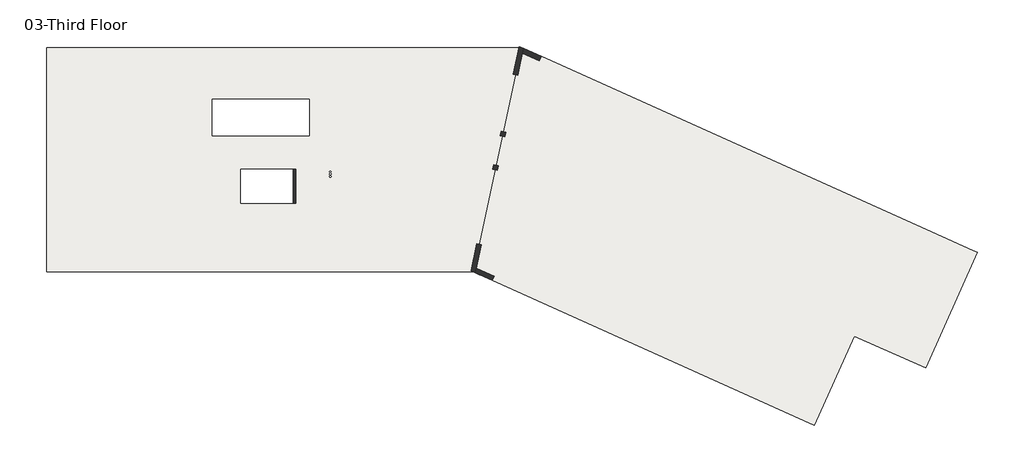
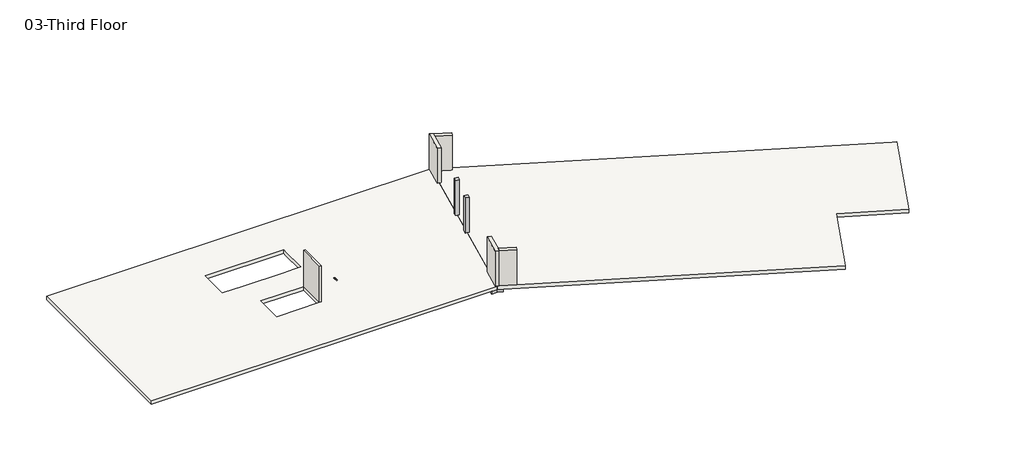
# One storey: 5 walls, 3 beams, 2 columns, 2 slabs.
"""IFC4 building model written with IfcOpenShell, lengths in millimetres."""

from ifc_helpers import new_model, si_unit, frame, origin, place, context, project, spatial, polyline, circle_curve, outline, extrude, faceted_brep, element, save
from ifc_brep_helpers import plane_surface, revolved_surface, advanced_brep

model = new_model("IFC4")

# Units and contexts
model_context = context("Model", 3, world=origin())
ifc_project = project(units=[si_unit("LENGTHUNIT", "METRE", prefix="MILLI")], contexts=[model_context])

# Site, building, storey
site = spatial("IfcSite", under=ifc_project)
building = spatial("IfcBuilding", under=site)
storey = spatial("IfcBuildingStorey", under=building, Name="03-Third Floor", Elevation=10058.4)

# Beams
placement = place(None, origin())
element("IfcBeam", 1, ObjectType="Concrete-Rectangular Beam : 33\" x 18\"", at=placement, inside=storey, context=model_context, shape_type="SweptSolid", body=[
    extrude(outline(polyline([(30288.1466789, -5386.3746605), (29418.8803327, -5200.1033006), (30631.1596114, 457.2), (31098.7387393, 457.2), (31501.5663945, 276.250679), (30288.1466789, -5386.3746605)])), frame((0.0, 0.0, 9525.0), z_axis=(0.0, 0.0, 1.0), x_axis=(1.0, 0.0, 0.0)), (0.0, 0.0, 1.0), 228.6),
])
element("IfcBeam", 2, ObjectType="Concrete-Rectangular Beam : 33\" x 18\"", at=placement, inside=storey, context=model_context, shape_type="SweptSolid", body=[
    extrude(outline(polyline([(28946.1350665, -7406.2478765), (29418.8803327, -5200.1033006), (30288.1466789, -5386.3746605), (29815.4014126, -7592.5192364), (28946.1350665, -7406.2478765)])), frame((0.0, 0.0, 9525.0), z_axis=(0.0, 0.0, 1.0), x_axis=(1.0, 0.0, 0.0)), (0.0, 0.0, 1.0), 228.6),
])
element("IfcBeam", 3, ObjectType="Concrete-Rectangular Beam : 33\" x 18\"", at=placement, inside=storey, context=model_context, shape_type="SweptSolid", body=[
    extrude(outline(polyline([(28946.1350665, -7406.2478765), (29815.4014126, -7592.5192364), (28306.6092516, -14633.549321), (27903.7815965, -14452.6), (27436.2024686, -14452.6), (28946.1350665, -7406.2478765)])), frame((0.0, 0.0, 9525.0), z_axis=(0.0, 0.0, 1.0), x_axis=(1.0, 0.0, 0.0)), (0.0, 0.0, 1.0), 228.6),
])

# Columns
element("IfcColumn", 4, ObjectType="Concrete-Rectangular-Column : 12 x 12", at=placement, inside=storey, context=model_context, shape_type="SweptSolid", body=[
    extrude(outline(polyline([(29275.3181702, -7324.750679), (29573.3523461, -7388.6151452), (29509.4878798, -7686.649321), (29211.453704, -7622.7848548), (29275.3181702, -7324.750679)])), frame((0.0, 0.0, 10058.4), z_axis=(0.0, 0.0, 1.0), x_axis=(1.0, 0.0, 0.0)), (0.0, 0.0, 1.0), 3048.0),
])
element("IfcColumn", 5, ObjectType="Concrete-Rectangular-Column : 12 x 12", at=placement, inside=storey, context=model_context, shape_type="SweptSolid", body=[
    extrude(outline(polyline([(29748.8467417, -5114.950679), (30046.8809175, -5178.8151452), (29983.0164512, -5476.849321), (29684.9822754, -5412.9848548), (29748.8467417, -5114.950679)])), frame((0.0, 0.0, 10058.4), z_axis=(0.0, 0.0, 1.0), x_axis=(1.0, 0.0, 0.0)), (0.0, 0.0, 1.0), 3048.0),
])

# Slabs
element("IfcSlab", 6, ObjectType="RC Slab 12\"", at=placement, inside=storey, context=model_context, shape_type="AdvancedBrep", body=[
    advanced_brep(
    [(-457.2, 457.2, 9753.6), (30631.1596114, 457.2, 9753.6), (31098.7387393, 457.2, 9753.6), (27903.7815965, -14452.6, 9753.6), (27436.2024686, -14452.6, 9753.6), (-457.2, -14452.6, 9753.6), (17005.3, -2984.5, 9753.6), (10553.7, -2984.5, 9753.6), (10553.7, -5422.9, 9753.6), (10858.5, -5422.9, 9753.6), (17005.3, -5422.9, 9753.6), (17005.3, -5168.9, 9753.6), (17005.3, -3289.3, 9753.6), (15951.2, -7633.3081651, 9753.6), (12446.0, -7633.3081651, 9753.6), (12446.0, -9893.3, 9753.6), (15951.2, -9893.3, 9753.6), (18347.8020543, -8109.4381113, 9753.6), (18449.4020543, -8109.4381113, 9753.6), (18347.8020543, -7957.0381113, 9753.6), (18449.4020543, -7957.0381113, 9753.6), (18347.8020543, -7804.6381113, 9753.6), (18449.4020543, -7804.6381113, 9753.6), (31098.7387393, 457.2, 10058.4), (-457.2, 457.2, 10058.4), (-457.2, -14452.6, 10058.4), (27903.7815965, -14452.6, 10058.4), (10553.7, -2984.5, 10058.4), (17005.3, -2984.5, 10058.4), (17005.3, -3289.3, 10058.4), (17005.3, -5168.9, 10058.4), (17005.3, -5422.9, 10058.4), (16522.7, -5422.9, 10058.4), (15608.3, -5422.9, 10058.4), (14389.1, -5422.9, 10058.4), (13474.7, -5422.9, 10058.4), (12242.8, -5422.9, 10058.4), (11328.4, -5422.9, 10058.4), (10553.7, -5422.9, 10058.4), (12446.0, -7633.3081651, 10058.4), (15951.2, -7633.3081651, 10058.4), (15951.2, -9893.3, 10058.4), (12446.0, -9893.3, 10058.4), (18449.4020543, -8109.4381113, 10058.4), (18347.8020543, -8109.4381113, 10058.4), (18449.4020543, -7957.0381113, 10058.4), (18347.8020543, -7957.0381113, 10058.4), (18449.4020543, -7804.6381113, 10058.4), (18347.8020543, -7804.6381113, 10058.4)],
    [
        (0, 1),
        (1, 2),
        (2, 3),
        (3, 4),
        (4, 5),
        (5, 0),
        (6, 7),
        (7, 8),
        (8, 9),
        (9, 10),
        (10, 11),
        (11, 12),
        (12, 6),
        (13, 14),
        (14, 15),
        (15, 16),
        (16, 13),
        (17, 18, circle_curve(frame((18398.6020543, -8109.4381113, 9753.6), z_axis=(0.0, 0.0, 1.0), x_axis=(1.0, 0.0, 0.0)), 50.8)),
        (18, 17, circle_curve(frame((18398.6020543, -8109.4381113, 9753.6), z_axis=(0.0, 0.0, 1.0), x_axis=(1.0, 0.0, 0.0)), 50.8)),
        (19, 20, circle_curve(frame((18398.6020543, -7957.0381113, 9753.6), z_axis=(0.0, 0.0, 1.0), x_axis=(1.0, 0.0, 0.0)), 50.8)),
        (20, 19, circle_curve(frame((18398.6020543, -7957.0381113, 9753.6), z_axis=(0.0, 0.0, 1.0), x_axis=(1.0, 0.0, 0.0)), 50.8)),
        (21, 22, circle_curve(frame((18398.6020543, -7804.6381113, 9753.6), z_axis=(0.0, 0.0, 1.0), x_axis=(1.0, 0.0, 0.0)), 50.8)),
        (22, 21, circle_curve(frame((18398.6020543, -7804.6381113, 9753.6), z_axis=(0.0, 0.0, 1.0), x_axis=(1.0, 0.0, 0.0)), 50.8)),
        (23, 24),
        (24, 25),
        (25, 26),
        (26, 23),
        (27, 28),
        (28, 29),
        (29, 30),
        (30, 31),
        (31, 32),
        (32, 33),
        (33, 34),
        (34, 35),
        (35, 36),
        (36, 37),
        (37, 38),
        (38, 27),
        (39, 40),
        (40, 41),
        (41, 42),
        (42, 39),
        (43, 44, circle_curve(frame((18398.6020543, -8109.4381113, 10058.4), z_axis=(0.0, 0.0, -1.0), x_axis=(1.0, 0.0, 0.0)), 50.8)),
        (44, 43, circle_curve(frame((18398.6020543, -8109.4381113, 10058.4), z_axis=(0.0, 0.0, -1.0), x_axis=(1.0, 0.0, 0.0)), 50.8)),
        (45, 46, circle_curve(frame((18398.6020543, -7957.0381113, 10058.4), z_axis=(0.0, 0.0, -1.0), x_axis=(1.0, 0.0, 0.0)), 50.8)),
        (46, 45, circle_curve(frame((18398.6020543, -7957.0381113, 10058.4), z_axis=(0.0, 0.0, -1.0), x_axis=(1.0, 0.0, 0.0)), 50.8)),
        (47, 48, circle_curve(frame((18398.6020543, -7804.6381113, 10058.4), z_axis=(0.0, 0.0, -1.0), x_axis=(1.0, 0.0, 0.0)), 50.8)),
        (48, 47, circle_curve(frame((18398.6020543, -7804.6381113, 10058.4), z_axis=(0.0, 0.0, -1.0), x_axis=(1.0, 0.0, 0.0)), 50.8)),
        (0, 24),
        (23, 2),
        (26, 3),
        (25, 5),
        (6, 28),
        (27, 7),
        (38, 8),
        (31, 10),
        (13, 40),
        (39, 14),
        (42, 15),
        (41, 16),
        (17, 44),
        (43, 18),
        (19, 46),
        (45, 20),
        (21, 48),
        (47, 22),
    ],
    [
        plane_surface(frame((0.0, 457.2, 9753.6), z_axis=(0.0, 0.0, -1.0), x_axis=(1.0, 0.0, 0.0))),
        plane_surface(frame((0.0, 457.2, 10058.4), z_axis=(0.0, 0.0, 1.0), x_axis=(-1.0, 0.0, 0.0))),
        plane_surface(frame((-457.2, 457.2, 9753.6), z_axis=(0.0, 1.0, 0.0), x_axis=(0.0, 0.0, 1.0))),
        plane_surface(frame((31098.7387393, 457.2, 9753.6), z_axis=(0.9778024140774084, -0.2095290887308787, 0.0), x_axis=(0.0, 0.0, 1.0))),
        plane_surface(frame((27903.7815965, -14452.6, 9753.6), z_axis=(0.0, -1.0, 0.0), x_axis=(0.0, 0.0, 1.0))),
        plane_surface(frame((-457.2, -14452.6, 9753.6), z_axis=(-1.0, 0.0, 0.0), x_axis=(0.0, 0.0, 1.0))),
        plane_surface(frame((17005.3, -2984.5, 17068.8), z_axis=(0.0, -1.0, 0.0), x_axis=(0.0, 0.0, -1.0))),
        plane_surface(frame((10553.7, -2984.5, 17068.8), z_axis=(1.0, 0.0, 0.0), x_axis=(0.0, 0.0, -1.0))),
        plane_surface(frame((10553.7, -5422.9, 17068.8), z_axis=(0.0, 1.0, 0.0), x_axis=(0.0, 0.0, -1.0))),
        plane_surface(frame((17005.3, -5422.9, 17068.8), z_axis=(-1.0, 0.0, 0.0), x_axis=(0.0, 0.0, -1.0))),
        plane_surface(frame((15951.2, -7633.3081651, 17068.8), z_axis=(0.0, -1.0, 0.0), x_axis=(0.0, 0.0, -1.0))),
        plane_surface(frame((12446.0, -7633.3081651, 17068.8), z_axis=(1.0, 0.0, 0.0), x_axis=(0.0, 0.0, -1.0))),
        plane_surface(frame((12446.0, -9893.3, 17068.8), z_axis=(0.0, 1.0, 0.0), x_axis=(0.0, 0.0, -1.0))),
        plane_surface(frame((15951.2, -9893.3, 17068.8), z_axis=(-1.0, 0.0, 0.0), x_axis=(0.0, 0.0, -1.0))),
        revolved_surface(polyline([(18449.4020543, -8109.4381113, 10058.4), (18449.4020543, -8109.4381113, 9753.6)]), (18398.6020543, -8109.4381113, 9448.8), (0.0, 0.0, 1.0)),
        revolved_surface(polyline([(18449.4020543, -7957.0381113, 10058.4), (18449.4020543, -7957.0381113, 9753.6)]), (18398.6020543, -7957.0381113, 9448.8), (0.0, 0.0, 1.0)),
        revolved_surface(polyline([(18449.4020543, -7804.6381113, 10058.4), (18449.4020543, -7804.6381113, 9753.6)]), (18398.6020543, -7804.6381113, 9448.8), (0.0, 0.0, 1.0)),
    ],
    [
        (0, [[1, 2, 3, 4, 5, 6], [7, 8, 9, 10, 11, 12, 13], [14, 15, 16, 17], [18, 19], [20, 21], [22, 23]]),
        (1, [[24, 25, 26, 27], [28, 29, 30, 31, 32, 33, 34, 35, 36, 37, 38, 39], [40, 41, 42, 43], [44, 45], [46, 47], [48, 49]]),
        (2, [[-2, -1, 50, -24, 51]]),
        (3, [[-3, -51, -27, 52]]),
        (4, [[-5, -4, -52, -26, 53]]),
        (5, [[-6, -53, -25, -50]]),
        (6, [[54, -28, 55, -7]]),
        (7, [[-55, -39, 56, -8]]),
        (8, [[-56, -38, -37, -36, -35, -34, -33, -32, 57, -10, -9]]),
        (9, [[-54, -13, -12, -11, -57, -31, -30, -29]]),
        (10, [[58, -40, 59, -14]]),
        (11, [[-59, -43, 60, -15]]),
        (12, [[-60, -42, 61, -16]]),
        (13, [[-58, -17, -61, -41]]),
        (14, [[62, -44, 63, -18]]),
        (14, [[-62, -19, -63, -45]]),
        (15, [[64, -46, 65, -20]]),
        (15, [[-64, -21, -65, -47]]),
        (16, [[66, -48, 67, -22]]),
        (16, [[-66, -23, -67, -49]]),
    ],
),
])
element("IfcSlab", 7, ObjectType="RC Slab 12\"", at=placement, inside=storey, context=model_context, shape_type="Brep", body=[
    faceted_brep([(61413.0546278, -13159.9258537, 9753.6), (57962.8673107, -20840.7, 9753.6), (53236.2370668, -18717.5078049, 9753.6), (50577.0429205, -24637.3804878, 9753.6), (28306.6092516, -14633.549321, 9753.6), (27903.7815965, -14452.6, 9753.6), (31098.7387393, 457.2, 9753.6), (31501.5663945, 276.250679, 9753.6), (58354.6468229, -11786.0956098, 9753.6), (61135.0175546, -13035.0321951, 9753.6), (61413.0546278, -13159.9258537, 10058.4), (61135.0175546, -13035.0321951, 10058.4), (58354.6468229, -11786.0956098, 10058.4), (32422.724802, -137.5317073, 10058.4), (31240.9132058, 393.3355338, 10058.4), (31098.7387393, 457.2, 10058.4), (27903.7815965, -14452.6, 10058.4), (28045.956063, -14516.4644662, 10058.4), (29168.1882864, -15020.5687805, 10058.4), (50577.0429205, -24637.3804878, 10058.4), (53236.2370668, -18717.5078049, 10058.4), (57962.8673107, -20840.7, 10058.4)], [[[0, 1, 2, 3, 4, 5, 6, 7, 8, 9]], [[10, 11, 12, 13, 14, 15, 16, 17, 18, 19, 20, 21]], [[1, 0, 10, 21]], [[2, 1, 21, 20]], [[3, 2, 20, 19]], [[5, 4, 3, 19, 18, 17, 16]], [[6, 5, 16, 15]], [[0, 9, 8, 7, 6, 15, 14, 13, 12, 11, 10]]]),
])

# Walls
element("IfcWall", 8, ObjectType="6\" Blockwork with render", at=placement, inside=storey, context=model_context, shape_type="SweptSolid", body=[
    extrude(outline(polyline([(16103.6, -7632.7), (16103.6, -9893.3), (15951.2, -9893.3), (15951.2, -7632.7), (16103.6, -7632.7)])), frame((0.0, 0.0, 10058.4), z_axis=(0.0, 0.0, 1.0), x_axis=(1.0, 0.0, 0.0)), (0.0, 0.0, 1.0), 3149.6),
])
element("IfcWall", 9, ObjectType="RC Wall 12\"", at=placement, inside=storey, context=model_context, shape_type="Brep", body=[
    faceted_brep([(30956.5642728, 521.0644662, 10058.4), (30564.3601247, -1309.221558, 10058.4), (30564.3601247, -1309.221558, 13106.4), (30956.5642728, 521.0644662, 13106.4), (30862.3943005, -1373.0860243, 10058.4), (31175.5989201, 88.5355338, 10058.4), (31240.9132058, 393.3355338, 10058.4), (31240.9132058, 393.3355338, 13106.4), (31175.5989201, 88.5355338, 13106.4), (30862.3943005, -1373.0860243, 13106.4), (31098.7387393, 457.2, 10058.4)], [[[0, 1, 2, 3]], [[4, 5, 6, 7, 8, 9]], [[1, 0, 10, 6, 5, 4]], [[1, 4, 9, 2]], [[6, 10, 0, 3, 7]], [[3, 2, 9, 8, 7]]]),
])
element("IfcWall", 10, ObjectType="RC Wall 12\"", at=placement, inside=storey, context=model_context, shape_type="SweptSolid", body=[
    extrude(outline(polyline([(32297.8311435, -415.5687805), (31175.5989201, 88.5355338), (31240.9132058, 393.3355338), (32422.724802, -137.5317073), (32297.8311435, -415.5687805)])), frame((0.0, 0.0, 10058.4), z_axis=(0.0, 0.0, 1.0), x_axis=(1.0, 0.0, 0.0)), (0.0, 0.0, 1.0), 3048.0),
])
element("IfcWall", 11, ObjectType="RC Wall 12\"", at=placement, inside=storey, context=model_context, shape_type="Brep", body=[
    faceted_brep([(28150.0697886, -12575.9097931, 10058.4), (27761.6071299, -14388.7355338, 10058.4), (27761.6071299, -14388.7355338, 13106.4), (28150.0697886, -12575.9097931, 13106.4), (28045.956063, -14516.4644662, 10058.4), (28111.2703487, -14211.6644662, 10058.4), (28448.1039645, -12639.7742594, 10058.4), (28448.1039645, -12639.7742594, 13106.4), (28111.2703487, -14211.6644662, 13106.4), (28045.956063, -14516.4644662, 13106.4), (27903.7815965, -14452.6, 10058.4)], [[[0, 1, 2, 3]], [[4, 5, 6, 7, 8, 9]], [[1, 0, 6, 5, 4, 10]], [[6, 0, 3, 7]], [[1, 10, 4, 9, 2]], [[3, 2, 9, 8, 7]]]),
])
element("IfcWall", 12, ObjectType="RC Wall 12\"", at=placement, inside=storey, context=model_context, shape_type="SweptSolid", body=[
    extrude(outline(polyline([(29168.1882864, -15020.5687805), (28045.956063, -14516.4644662), (28111.2703487, -14211.6644662), (29293.0819449, -14742.5317073), (29168.1882864, -15020.5687805)])), frame((0.0, 0.0, 10058.4), z_axis=(0.0, 0.0, 1.0), x_axis=(1.0, 0.0, 0.0)), (0.0, 0.0, 1.0), 3048.0),
])

save(model, "model.ifc")
